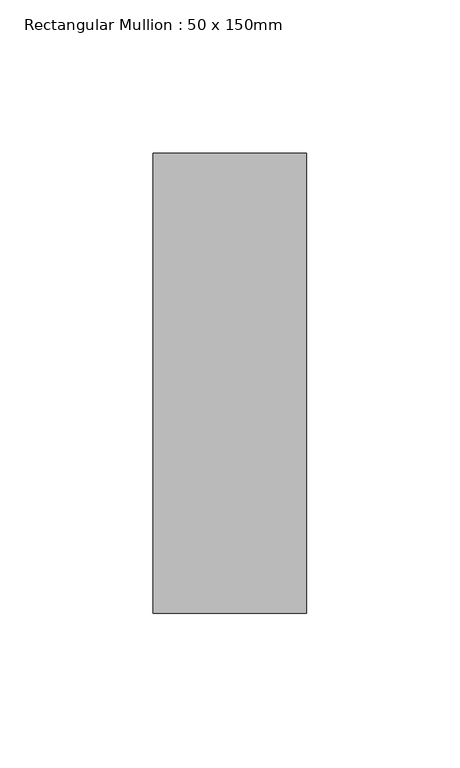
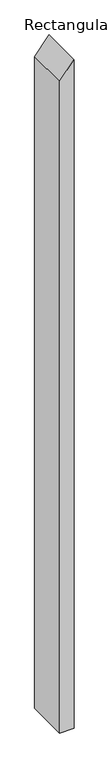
"""IFC4 building model written with IfcOpenShell, lengths in millimetres: member geometry, Rectangular Mullion : 50 x 150mm."""

from ifc_helpers import new_model, si_unit, frame, origin, place, context, project, spatial, polyline, outline, extrude, source, transform, mapped, element, save


def rectangular_mullion_50_x_150mm_1572fd96(model_context):
    return source(origin(), model_context, "Body", "SweptSolid", [
        extrude(outline(polyline([(0.0, 0.0), (-61.8224636, -50.0), (-2454.2601394, -50.0), (-2454.2601394, 0.0), (0.0, 0.0)])), frame((0.0, -75.0, 0.0), z_axis=(0.0, 1.0, 0.0), x_axis=(0.0, 0.0, 1.0)), (0.0, 0.0, 1.0), 150.0),
    ])


if __name__ == "__main__":
    model = new_model("IFC4")
    model_context = context("Model", 3, world=origin())
    ifc_project = project(units=[si_unit("LENGTHUNIT", "METRE", prefix="MILLI")], contexts=[model_context])
    site = spatial("IfcSite", under=ifc_project)
    building = spatial("IfcBuilding", under=site)
    placement = place(None, origin())
    rectangular_mullion_50_x_150mm_shape = rectangular_mullion_50_x_150mm_1572fd96(model_context)
    element("IfcMember", 1, ObjectType="Rectangular Mullion : 50 x 150mm", at=placement, inside=building, context=model_context, shape_type="MappedRepresentation", body=[
        mapped(rectangular_mullion_50_x_150mm_shape, transform((0.0, 0.0, 0.0), x_axis=(1.0, 0.0, 0.0), y_axis=(0.0, 1.0, 0.0), z_axis=(0.0, 0.0, 1.0))),
    ])
    save(model, "model.ifc")
